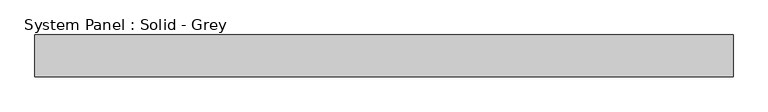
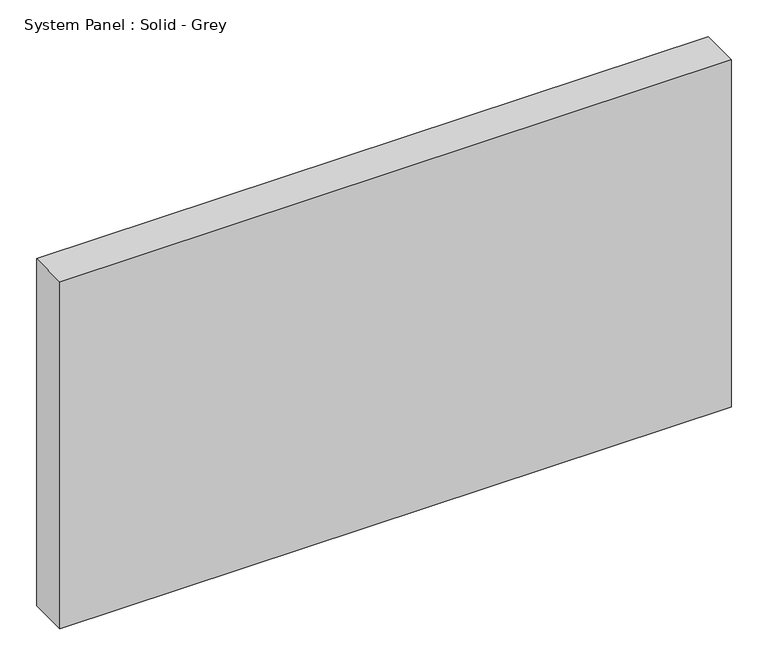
"""IFC4 building model written with IfcOpenShell, lengths in millimetres: plate geometry, System Panel : Solid - Grey."""

from ifc_helpers import new_model, si_unit, origin, origin_with_axes, place, context, project, spatial, polyline, outline, extrude, source, transform, mapped, element, save


def system_panel_solid_grey_76bbd327(model_context):
    return source(origin(), model_context, "Body", "SweptSolid", [
        extrude(outline(polyline([(528.4107144, -19.05), (-528.4107144, -19.05), (-528.4107144, 44.45), (528.4107144, 44.45), (528.4107144, -19.05)])), origin_with_axes(), (0.0, 0.0, 1.0), 577.85),
    ])


if __name__ == "__main__":
    model = new_model("IFC4")
    model_context = context("Model", 3, world=origin())
    ifc_project = project(units=[si_unit("LENGTHUNIT", "METRE", prefix="MILLI")], contexts=[model_context])
    site = spatial("IfcSite", under=ifc_project)
    building = spatial("IfcBuilding", under=site)
    placement = place(None, origin())
    system_panel_solid_grey_shape = system_panel_solid_grey_76bbd327(model_context)
    element("IfcPlate", 1, ObjectType="System Panel : Solid - Grey", at=placement, inside=building, context=model_context, shape_type="MappedRepresentation", body=[
        mapped(system_panel_solid_grey_shape, transform((0.0, 0.0, 0.0), x_axis=(1.0, 0.0, 0.0), y_axis=(0.0, 1.0, 0.0), z_axis=(0.0, 0.0, 1.0))),
    ])
    save(model, "model.ifc")
